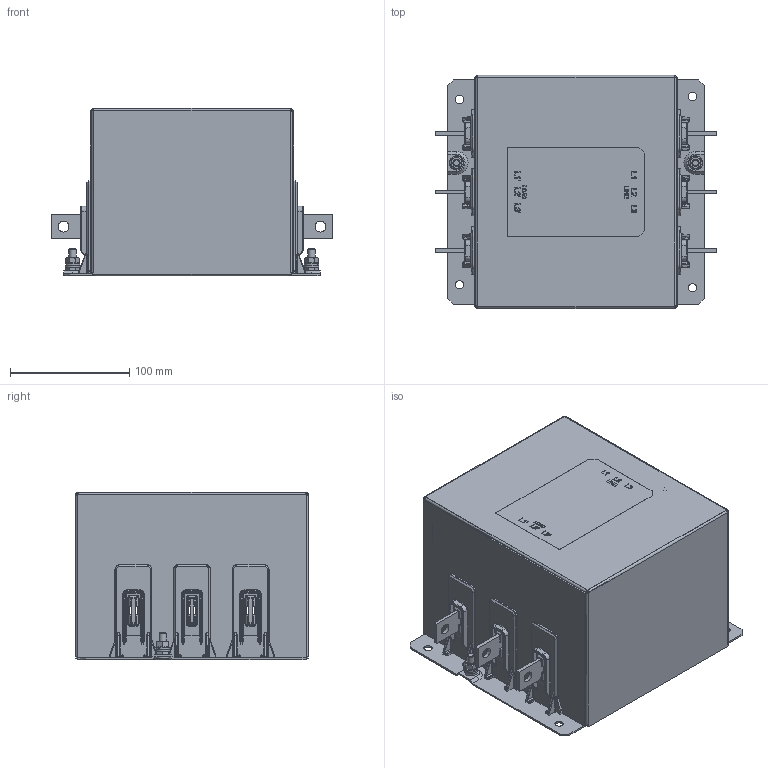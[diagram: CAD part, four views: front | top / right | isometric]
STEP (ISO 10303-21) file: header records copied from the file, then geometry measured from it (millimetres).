
FILE_DESCRIPTION((''),'2;1');
FILE_NAME('P:\Construction\Filter_Marketing\FN\FN3311\FN3311-250-99\FN331X-250-99-CXX-RXX.stp','2015-03-31T09:11:11',('erika.jenzer'),(''),'Autodesk Inventor 2013','Autodesk Inventor 2013','');
FILE_SCHEMA(('AUTOMOTIVE_DESIGN { 1 0 10303 214 1 1 1 1 }'));
Length unit declared in the file: millimetre
Products named in the file (1): FN331X-250-99-CXX-RXX
Bounding box: 235 x 195 x 140.1 mm (x, y, z)
Volume: 267263.8 mm3; surface area: 378157.4 mm2
Topology: 5 solids, 5 shells, 2422 faces, 6073 edges, 3646 vertices
Faces by surface type: plane 998, cylinder 734, bspline 568, sphere 60, cone 50, torus 12
Full cylindrical faces by diameter (mm): 4.82 x2, 6 x4, 7 x4, 9 x6, 10 x2, 12 x2
Entity records: 85402 total; most frequent: CARTESIAN_POINT 27124, ORIENTED_EDGE 11982, DIRECTION 11078, EDGE_CURVE 5991, AXIS2_PLACEMENT_3D 3822, VERTEX_POINT 3642, VECTOR 3434, LINE 3434
